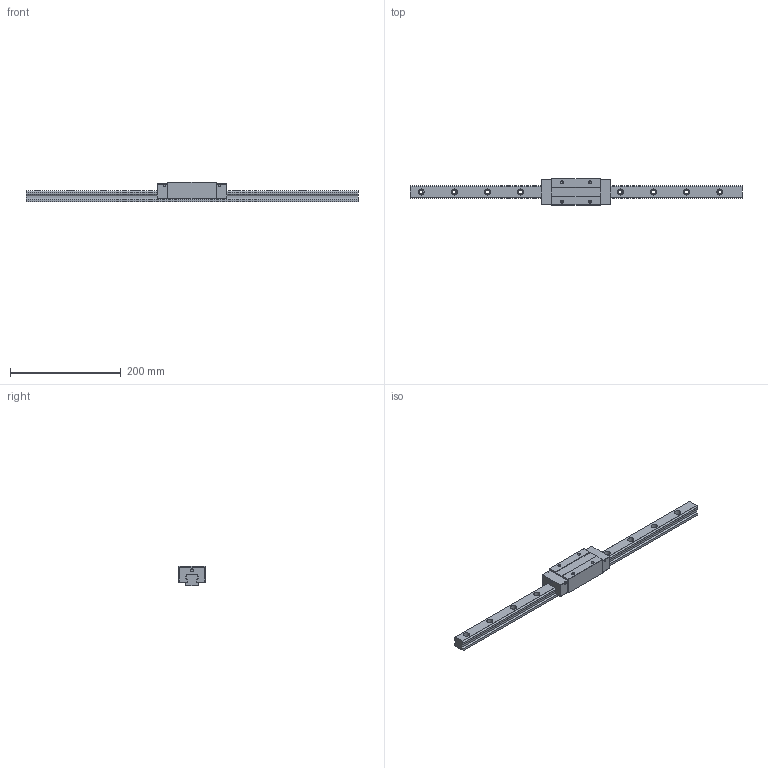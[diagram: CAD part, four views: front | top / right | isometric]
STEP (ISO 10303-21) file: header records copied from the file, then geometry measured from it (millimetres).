
FILE_DESCRIPTION (( 'STEP AP203' ), '1' );
FILE_NAME ('TRC25VE-BN.STEP', '2024-06-13T01:40:16', ( '' ), ( '' ), 'SwSTEP 2.0', 'SolidWorks 2022', '' );
FILE_SCHEMA (( 'CONFIG_CONTROL_DESIGN' ));
Length unit declared in the file: millimetre
Products named in the file (1): TRC25VE-BN
Bounding box: 600 x 48 x 36 mm (x, y, z)
Volume: 370430.8 mm3; surface area: 85432 mm2
Topology: 2 solids, 2 shells, 200 faces, 520 edges, 336 vertices
Faces by surface type: cylinder 96, plane 88, cone 16
Entity records: 6223 total; most frequent: DIRECTION 1114, CARTESIAN_POINT 1049, ORIENTED_EDGE 1024, EDGE_CURVE 512, AXIS2_PLACEMENT_3D 401, VERTEX_POINT 336, LINE 312, VECTOR 312
